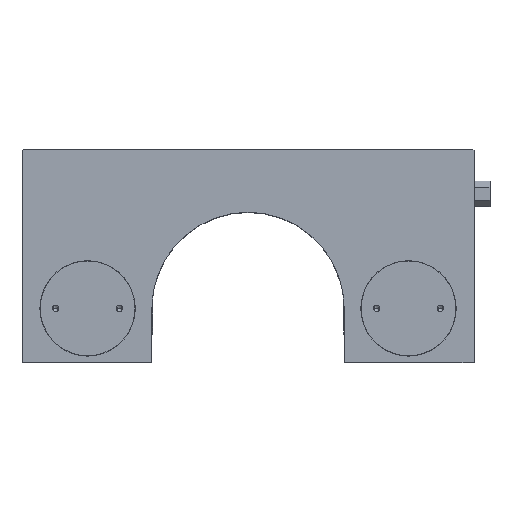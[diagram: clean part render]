
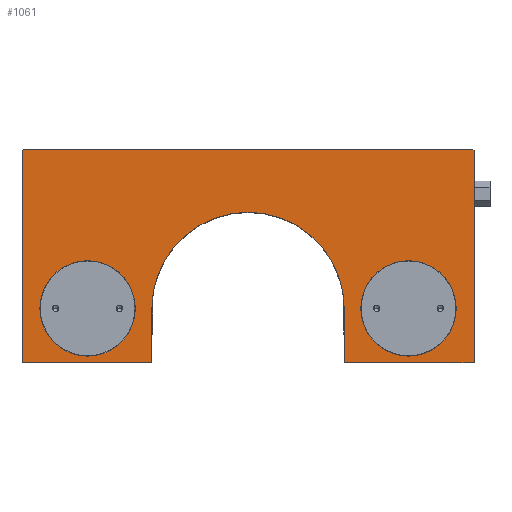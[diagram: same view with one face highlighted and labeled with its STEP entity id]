
A CAD part, top view. The second image highlights one B-rep face of the part: STEP entity #1061.
In plain terms, the highlighted planar face has unit normal (0, 0, 1).
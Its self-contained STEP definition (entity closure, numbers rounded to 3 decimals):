
#889 = VERTEX_POINT( '', #2624 );
#913 = VERTEX_POINT( '', #2648 );
#987 = VERTEX_POINT( '', #2732 );
#1019 = VERTEX_POINT( '', #2766 );
#1057 = EDGE_CURVE( '', #2591, #1863, #2807, .T. );
#1061 = ADVANCED_FACE( '', ( #2811, #2812, #2813 ), #2814, .F. );
#1137 = EDGE_CURVE( '', #2177, #889, #2899, .T. );
#1143 = EDGE_CURVE( '', #2331, #913, #2906, .T. );
#1161 = EDGE_CURVE( '', #2251, #2009, #2928, .T. );
#1183 = VERTEX_POINT( '', #2952 );
#1189 = VERTEX_POINT( '', #2959 );
#1193 = EDGE_CURVE( '', #913, #2331, #2963, .T. );
#1259 = EDGE_CURVE( '', #1881, #1407, #3037, .T. );
#1301 = EDGE_CURVE( '', #1407, #2177, #3082, .T. );
#1305 = EDGE_CURVE( '', #889, #1189, #3087, .T. );
#1407 = VERTEX_POINT( '', #3210 );
#1513 = EDGE_CURVE( '', #1863, #1183, #3333, .T. );
#1523 = EDGE_CURVE( '', #1189, #1019, #3344, .T. );
#1719 = EDGE_CURVE( '', #2009, #2251, #3557, .T. );
#1863 = VERTEX_POINT( '', #3713 );
#1881 = VERTEX_POINT( '', #3733 );
#1887 = EDGE_CURVE( '', #987, #1881, #3739, .T. );
#2009 = VERTEX_POINT( '', #3883 );
#2177 = VERTEX_POINT( '', #4073 );
#2251 = VERTEX_POINT( '', #4153 );
#2331 = VERTEX_POINT( '', #4255 );
#2463 = EDGE_CURVE( '', #1183, #987, #4398, .T. );
#2505 = EDGE_CURVE( '', #1019, #2591, #4445, .T. );
#2591 = VERTEX_POINT( '', #4542 );
#2624 = CARTESIAN_POINT( '', ( 71., 66.6, 24.5 ) );
#2648 = CARTESIAN_POINT( '', ( 65.4, 17., 24.5 ) );
#2732 = CARTESIAN_POINT( '', ( -71., 0., 24.5 ) );
#2766 = CARTESIAN_POINT( '', ( 30.2, 0., 24.5 ) );
#2807 = CIRCLE( '', #4829, 30.2 );
#2811 = FACE_BOUND( '', #4835, .T. );
#2812 = FACE_BOUND( '', #4836, .T. );
#2813 = FACE_OUTER_BOUND( '', #4837, .T. );
#2814 = PLANE( '', #4838 );
#2899 = LINE( '', #4949, #4950 );
#2906 = CIRCLE( '', #4958, 15. );
#2928 = CIRCLE( '', #4982, 15. );
#2952 = CARTESIAN_POINT( '', ( -30.2, 0., 24.5 ) );
#2959 = CARTESIAN_POINT( '', ( 71., 0., 24.5 ) );
#2963 = CIRCLE( '', #5028, 15. );
#3037 = LINE( '', #5130, #5131 );
#3082 = LINE( '', #5198, #5199 );
#3087 = LINE( '', #5205, #5206 );
#3210 = CARTESIAN_POINT( '', ( -70.6, 67., 24.5 ) );
#3333 = LINE( '', #5522, #5523 );
#3344 = LINE( '', #5537, #5538 );
#3557 = CIRCLE( '', #5854, 15. );
#3713 = CARTESIAN_POINT( '', ( -30.2, 17., 24.5 ) );
#3733 = CARTESIAN_POINT( '', ( -71., 66.6, 24.5 ) );
#3739 = LINE( '', #6106, #6107 );
#3883 = CARTESIAN_POINT( '', ( -65.4, 17., 24.5 ) );
#4073 = CARTESIAN_POINT( '', ( 70.6, 67., 24.5 ) );
#4153 = CARTESIAN_POINT( '', ( -35.4, 17., 24.5 ) );
#4255 = CARTESIAN_POINT( '', ( 35.4, 17., 24.5 ) );
#4398 = LINE( '', #7113, #7114 );
#4445 = LINE( '', #7176, #7177 );
#4542 = CARTESIAN_POINT( '', ( 30.2, 17., 24.5 ) );
#4829 = AXIS2_PLACEMENT_3D( '', #7538, #7539, #7540 );
#4835 = EDGE_LOOP( '', ( #7543, #7544 ) );
#4836 = EDGE_LOOP( '', ( #7545, #7546 ) );
#4837 = EDGE_LOOP( '', ( #7547, #7548, #7549, #7550, #7551, #7552, #7553, #7554, #7555, #7556 ) );
#4838 = AXIS2_PLACEMENT_3D( '', #7557, #7558, #7559 );
#4949 = CARTESIAN_POINT( '', ( 70.6, 67., 24.5 ) );
#4950 = VECTOR( '', #7648, 1. );
#4958 = AXIS2_PLACEMENT_3D( '', #7657, #7658, #7659 );
#4982 = AXIS2_PLACEMENT_3D( '', #7688, #7689, #7690 );
#5028 = AXIS2_PLACEMENT_3D( '', #7723, #7724, #7725 );
#5130 = CARTESIAN_POINT( '', ( -71., 66.6, 24.5 ) );
#5131 = VECTOR( '', #7804, 1. );
#5198 = CARTESIAN_POINT( '', ( -70.6, 67., 24.5 ) );
#5199 = VECTOR( '', #7849, 1. );
#5205 = CARTESIAN_POINT( '', ( 71., 66.6, 24.5 ) );
#5206 = VECTOR( '', #7858, 1. );
#5522 = CARTESIAN_POINT( '', ( -30.2, 17., 24.5 ) );
#5523 = VECTOR( '', #8213, 1. );
#5537 = CARTESIAN_POINT( '', ( 71., 0., 24.5 ) );
#5538 = VECTOR( '', #8223, 1. );
#5854 = AXIS2_PLACEMENT_3D( '', #8433, #8434, #8435 );
#6106 = CARTESIAN_POINT( '', ( -71., 0., 24.5 ) );
#6107 = VECTOR( '', #8623, 1. );
#7113 = CARTESIAN_POINT( '', ( -30.2, 0., 24.5 ) );
#7114 = VECTOR( '', #9399, 1. );
#7176 = CARTESIAN_POINT( '', ( 30.2, 0., 24.5 ) );
#7177 = VECTOR( '', #9455, 1. );
#7538 = CARTESIAN_POINT( '', ( 0., 17., 24.5 ) );
#7539 = DIRECTION( '', ( 0., 0., 1. ) );
#7540 = DIRECTION( '', ( 1., 0., 0. ) );
#7543 = ORIENTED_EDGE( '', *, *, #1161, .T. );
#7544 = ORIENTED_EDGE( '', *, *, #1719, .T. );
#7545 = ORIENTED_EDGE( '', *, *, #1193, .T. );
#7546 = ORIENTED_EDGE( '', *, *, #1143, .T. );
#7547 = ORIENTED_EDGE( '', *, *, #2505, .F. );
#7548 = ORIENTED_EDGE( '', *, *, #1523, .F. );
#7549 = ORIENTED_EDGE( '', *, *, #1305, .F. );
#7550 = ORIENTED_EDGE( '', *, *, #1137, .F. );
#7551 = ORIENTED_EDGE( '', *, *, #1301, .F. );
#7552 = ORIENTED_EDGE( '', *, *, #1259, .F. );
#7553 = ORIENTED_EDGE( '', *, *, #1887, .F. );
#7554 = ORIENTED_EDGE( '', *, *, #2463, .F. );
#7555 = ORIENTED_EDGE( '', *, *, #1513, .F. );
#7556 = ORIENTED_EDGE( '', *, *, #1057, .F. );
#7557 = CARTESIAN_POINT( '', ( 0., 0., 24.5 ) );
#7558 = DIRECTION( '', ( 0., 0., -1. ) );
#7559 = DIRECTION( '', ( -1., 0., 0. ) );
#7648 = DIRECTION( '', ( 0.707, -0.707, 0. ) );
#7657 = CARTESIAN_POINT( '', ( 50.4, 17., 24.5 ) );
#7658 = DIRECTION( '', ( 0., 0., -1. ) );
#7659 = DIRECTION( '', ( -1., 0., 0. ) );
#7688 = CARTESIAN_POINT( '', ( -50.4, 17., 24.5 ) );
#7689 = DIRECTION( '', ( 0., 0., -1. ) );
#7690 = DIRECTION( '', ( -1., 0., 0. ) );
#7723 = CARTESIAN_POINT( '', ( 50.4, 17., 24.5 ) );
#7724 = DIRECTION( '', ( 0., 0., -1. ) );
#7725 = DIRECTION( '', ( -1., 0., 0. ) );
#7804 = DIRECTION( '', ( 0.707, 0.707, 0. ) );
#7849 = DIRECTION( '', ( 1., 0., 0. ) );
#7858 = DIRECTION( '', ( 0., -1., 0. ) );
#8213 = DIRECTION( '', ( 0., -1., 0. ) );
#8223 = DIRECTION( '', ( -1., 0., 0. ) );
#8433 = CARTESIAN_POINT( '', ( -50.4, 17., 24.5 ) );
#8434 = DIRECTION( '', ( 0., 0., -1. ) );
#8435 = DIRECTION( '', ( -1., 0., 0. ) );
#8623 = DIRECTION( '', ( 0., 1., 0. ) );
#9399 = DIRECTION( '', ( -1., 0., 0. ) );
#9455 = DIRECTION( '', ( 0., 1., 0. ) );
